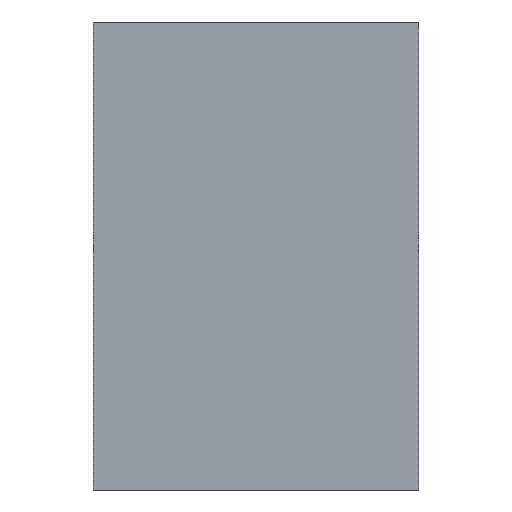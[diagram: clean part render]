
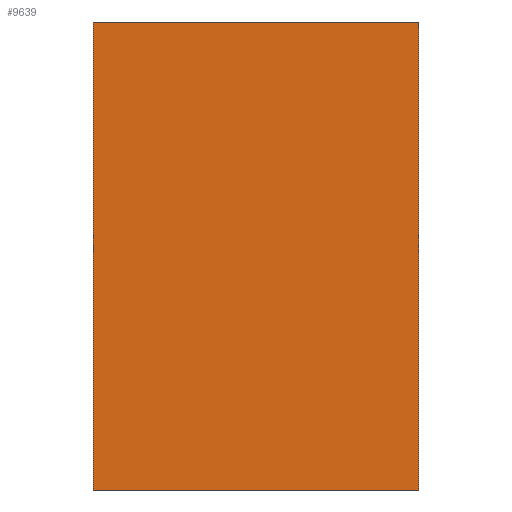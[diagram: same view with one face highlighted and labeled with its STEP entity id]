
A CAD part, left-side view. The second image highlights one B-rep face of the part: STEP entity #9639.
In plain terms, the highlighted planar face has unit normal (-1, 0, 0).
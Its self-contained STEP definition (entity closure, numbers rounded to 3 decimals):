
#333=DIRECTION('',(0.,0.,1.));
#334=VECTOR('',#333,115.);
#335=CARTESIAN_POINT('',(-110.,80.,-55.));
#336=LINE('',#335,#334);
#337=DIRECTION('',(0.,0.,-1.));
#338=VECTOR('',#337,115.);
#339=CARTESIAN_POINT('',(-110.,0.,60.));
#340=LINE('',#339,#338);
#341=DIRECTION('',(0.,1.,0.));
#342=VECTOR('',#341,80.);
#343=CARTESIAN_POINT('',(-110.,0.,-55.));
#344=LINE('',#343,#342);
#689=DIRECTION('',(0.,-1.,0.));
#690=VECTOR('',#689,80.);
#691=CARTESIAN_POINT('',(-110.,80.,60.));
#692=LINE('',#691,#690);
#8200=CARTESIAN_POINT('',(-110.,0.,-55.));
#8202=VERTEX_POINT('',#8200);
#8204=CARTESIAN_POINT('',(-110.,80.,-55.));
#8206=VERTEX_POINT('',#8204);
#8439=CARTESIAN_POINT('',(-110.,0.,60.));
#8441=VERTEX_POINT('',#8439);
#8445=CARTESIAN_POINT('',(-110.,80.,60.));
#8446=VERTEX_POINT('',#8445);
#9625=CARTESIAN_POINT('',(-110.,0.,-55.));
#9626=DIRECTION('',(-1.,0.,0.));
#9627=DIRECTION('',(0.,0.,1.));
#9628=AXIS2_PLACEMENT_3D('',#9625,#9626,#9627);
#9629=PLANE('',#9628);
#9631=ORIENTED_EDGE('',*,*,#9630,.T.);
#9633=ORIENTED_EDGE('',*,*,#9632,.T.);
#9634=ORIENTED_EDGE('',*,*,#9404,.T.);
#9636=ORIENTED_EDGE('',*,*,#9635,.T.);
#9637=EDGE_LOOP('',(#9631,#9633,#9634,#9636));
#9638=FACE_OUTER_BOUND('',#9637,.F.);
#9639=ADVANCED_FACE('',(#9638),#9629,.T.);
#9404=EDGE_CURVE('',#8441,#8202,#340,.T.);
#9630=EDGE_CURVE('',#8206,#8446,#336,.T.);
#9632=EDGE_CURVE('',#8446,#8441,#692,.T.);
#9635=EDGE_CURVE('',#8202,#8206,#344,.T.);
